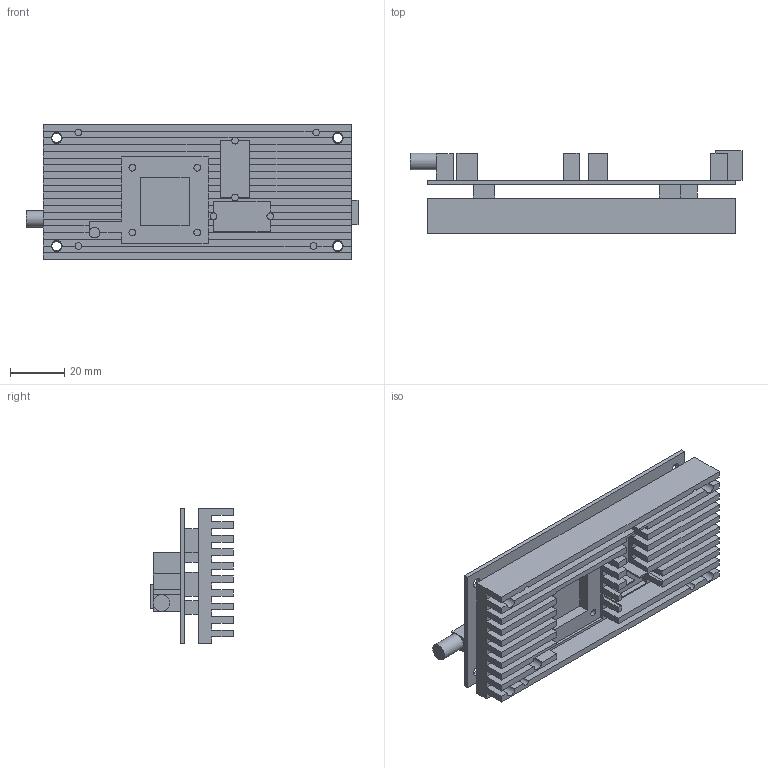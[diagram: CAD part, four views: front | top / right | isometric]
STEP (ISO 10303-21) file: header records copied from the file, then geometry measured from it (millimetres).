
FILE_DESCRIPTION (( 'STEP AP203' ), '1' );
FILE_NAME ('SWDR.STEP', '2026-07-15T16:16:33', ( 'cad' ), ( '' ), 'SwSTEP 2.0', 'SolidWorks 2017', '' );
FILE_SCHEMA (( 'CONFIG_CONTROL_DESIGN' ));
Length unit declared in the file: millimetre
Products named in the file (3): PCB-HIPOWER; 500KNSSW heatsink; SWDR
Assembly tree (2 placements, depth 2):
  SWDR
    PCB-HIPOWER
    500KNSSW heatsink
Bounding box: 122.86 x 30.6 x 50 mm (x, y, z)
Volume: 54953 mm3; surface area: 43176.2 mm2
Topology: 2 solids, 2 shells, 220 faces, 645 edges, 427 vertices
Faces by surface type: plane 196, cylinder 24
Full cylindrical faces by diameter (mm): 1.596 x1, 2.5 x12, 3.5 x4, 4 x5, 6.2 x1, 6.3 x1
Entity records: 7381 total; most frequent: CARTESIAN_POINT 1251, ORIENTED_EDGE 1220, DIRECTION 1130, EDGE_CURVE 610, LINE 540, VECTOR 540, VERTEX_POINT 416, AXIS2_PLACEMENT_3D 295
